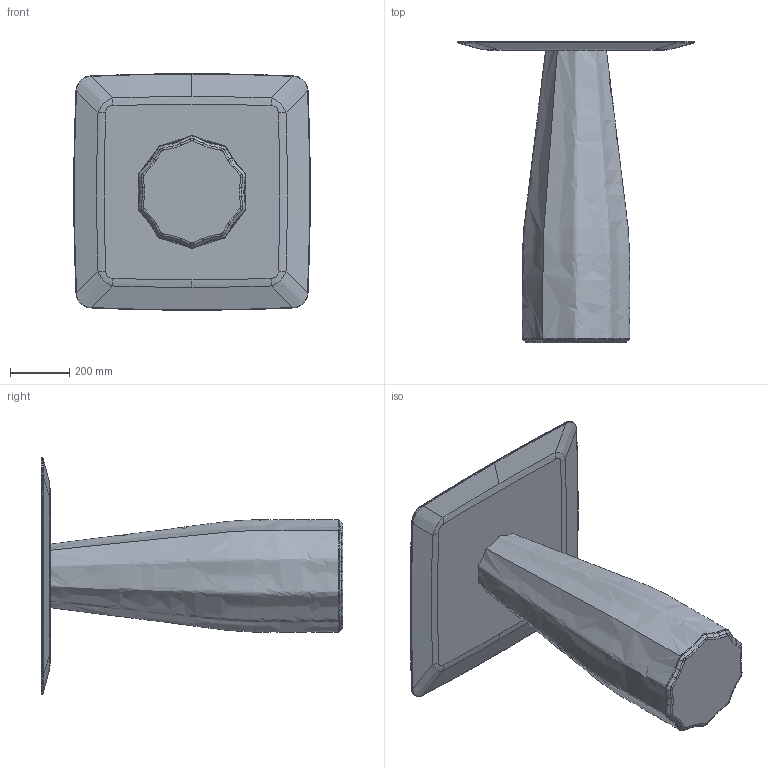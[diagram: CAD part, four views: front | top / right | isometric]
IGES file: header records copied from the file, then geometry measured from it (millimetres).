
Start section: SolidWorks IGES file using analytic representation for surfaces
Global section: file name: Z:\01-VICCARBE\VICCARBE TECNICO 2018\6.-Studio VCCB\Otros\Burin\Modelado\WEB\Nueva carpeta\BurinH100C80.IGS; native system: SolidWorks 2013; preprocessor: SolidWorks 2013; author: Usuario; date: 190219.124106; units: millimetre
Bounding box: 799.26 x 1020 x 799.63 mm (x, y, z)
Volume: 93963485.4 mm3; surface area: 2412790.8 mm2
Topology: 2 solids, 2 shells, 199 faces, 511 edges, 296 vertices
Faces by surface type: bspline 162, revolution 33, plane 4
